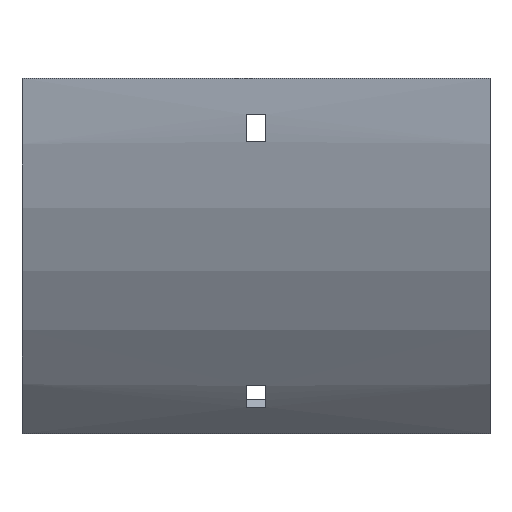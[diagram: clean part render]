
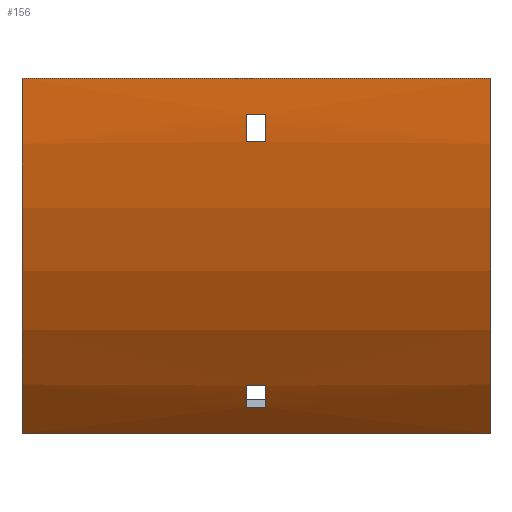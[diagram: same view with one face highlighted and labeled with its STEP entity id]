
A CAD part, front view. The second image highlights one B-rep face of the part: STEP entity #156.
In plain terms, the highlighted cylindrical face has radius 165.5 mm (diameter 331 mm), a partial arc.
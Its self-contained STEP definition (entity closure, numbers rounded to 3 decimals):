
#19 = VECTOR ( 'NONE', #184, 1000. ) ;
#54 = CIRCLE ( 'NONE', #167, 165.5 ) ;
#75 = AXIS2_PLACEMENT_3D ( 'NONE', #454, #552, #1070 ) ;
#77 = CARTESIAN_POINT ( 'NONE',  ( -77., -65.5, 0. ) ) ;
#94 = VERTEX_POINT ( 'NONE', #578 ) ;
#98 = VECTOR ( 'NONE', #327, 1000. ) ;
#102 = EDGE_CURVE ( 'NONE', #807, #732, #1025, .T. ) ;
#123 = ORIENTED_EDGE ( 'NONE', *, *, #432, .F. ) ;
#131 = CIRCLE ( 'NONE', #736, 165.5 ) ;
#144 = VERTEX_POINT ( 'NONE', #383 ) ;
#153 = ORIENTED_EDGE ( 'NONE', *, *, #302, .F. ) ;
#156 = ADVANCED_FACE ( 'NONE', ( #364, #818, #640 ), #1022, .T. ) ;
#165 = DIRECTION ( 'NONE',  ( -1., 0., 0. ) ) ;
#167 = AXIS2_PLACEMENT_3D ( 'NONE', #680, #540, #981 ) ;
#181 = AXIS2_PLACEMENT_3D ( 'NONE', #229, #589, #395 ) ;
#184 = DIRECTION ( 'NONE',  ( 1., 0., 0. ) ) ;
#205 = AXIS2_PLACEMENT_3D ( 'NONE', #925, #300, #655 ) ;
#215 = LINE ( 'NONE', #571, #947 ) ;
#222 = DIRECTION ( 'NONE',  ( 0., 0., -1. ) ) ;
#223 = ORIENTED_EDGE ( 'NONE', *, *, #711, .F. ) ;
#229 = CARTESIAN_POINT ( 'NONE',  ( 77., 100., 0. ) ) ;
#232 = CARTESIAN_POINT ( 'NONE',  ( 77., -65.5, 0. ) ) ;
#234 = DIRECTION ( 'NONE',  ( 1., 0., 0. ) ) ;
#277 = DIRECTION ( 'NONE',  ( 0., 0., 1. ) ) ;
#300 = DIRECTION ( 'NONE',  ( 1., 0., 0. ) ) ;
#302 = EDGE_CURVE ( 'NONE', #1010, #699, #649, .T. ) ;
#315 = VERTEX_POINT ( 'NONE', #1139 ) ;
#322 = CARTESIAN_POINT ( 'NONE',  ( 3.25, -30.929, -101.231 ) ) ;
#325 = EDGE_CURVE ( 'NONE', #791, #400, #337, .T. ) ;
#327 = DIRECTION ( 'NONE',  ( 1., 0., 0. ) ) ;
#337 = LINE ( 'NONE', #956, #360 ) ;
#360 = VECTOR ( 'NONE', #165, 1000. ) ;
#364 = FACE_OUTER_BOUND ( 'NONE', #433, .T. ) ;
#368 = VERTEX_POINT ( 'NONE', #750 ) ;
#373 = ORIENTED_EDGE ( 'NONE', *, *, #1136, .T. ) ;
#383 = CARTESIAN_POINT ( 'NONE',  ( 77., -17.026, -117.026 ) ) ;
#390 = CARTESIAN_POINT ( 'NONE',  ( 77., -30.929, -101.231 ) ) ;
#395 = DIRECTION ( 'NONE',  ( 0., 0., 1. ) ) ;
#400 = VERTEX_POINT ( 'NONE', #1085 ) ;
#432 = EDGE_CURVE ( 'NONE', #699, #315, #131, .T. ) ;
#433 = EDGE_LOOP ( 'NONE', ( #944, #223, #751, #576 ) ) ;
#443 = CARTESIAN_POINT ( 'NONE',  ( -77., -17.026, -117.026 ) ) ;
#447 = AXIS2_PLACEMENT_3D ( 'NONE', #948, #234, #222 ) ;
#451 = LINE ( 'NONE', #458, #19 ) ;
#454 = CARTESIAN_POINT ( 'NONE',  ( 3.25, 100., 0. ) ) ;
#458 = CARTESIAN_POINT ( 'NONE',  ( 77., -65.064, -12. ) ) ;
#484 = EDGE_CURVE ( 'NONE', #400, #368, #718, .T. ) ;
#513 = CARTESIAN_POINT ( 'NONE',  ( 3.25, -65.064, -12. ) ) ;
#540 = DIRECTION ( 'NONE',  ( 1., 0., 0. ) ) ;
#544 = CARTESIAN_POINT ( 'NONE',  ( -3.25, 100., 0. ) ) ;
#552 = DIRECTION ( 'NONE',  ( -1., 0., 0. ) ) ;
#565 = CARTESIAN_POINT ( 'NONE',  ( -3.25, 100., 0. ) ) ;
#571 = CARTESIAN_POINT ( 'NONE',  ( 77., -17.026, -117.026 ) ) ;
#574 = CARTESIAN_POINT ( 'NONE',  ( 77., -25.203, -108.233 ) ) ;
#576 = ORIENTED_EDGE ( 'NONE', *, *, #102, .T. ) ;
#578 = CARTESIAN_POINT ( 'NONE',  ( 3.25, -25.203, -108.233 ) ) ;
#587 = CIRCLE ( 'NONE', #75, 165.5 ) ;
#589 = DIRECTION ( 'NONE',  ( -1., 0., 0. ) ) ;
#618 = EDGE_LOOP ( 'NONE', ( #123, #153, #1122, #801 ) ) ;
#638 = EDGE_CURVE ( 'NONE', #315, #94, #1107, .T. ) ;
#640 = FACE_BOUND ( 'NONE', #618, .T. ) ;
#649 = LINE ( 'NONE', #390, #1151 ) ;
#655 = DIRECTION ( 'NONE',  ( 0., 0., -1. ) ) ;
#659 = EDGE_CURVE ( 'NONE', #1035, #791, #1039, .T. ) ;
#675 = EDGE_CURVE ( 'NONE', #732, #802, #848, .T. ) ;
#680 = CARTESIAN_POINT ( 'NONE',  ( 77., 100., 0. ) ) ;
#699 = VERTEX_POINT ( 'NONE', #735 ) ;
#702 = DIRECTION ( 'NONE',  ( -1., 0., 0. ) ) ;
#711 = EDGE_CURVE ( 'NONE', #144, #802, #215, .T. ) ;
#718 = CIRCLE ( 'NONE', #871, 165.5 ) ;
#732 = VERTEX_POINT ( 'NONE', #77 ) ;
#735 = CARTESIAN_POINT ( 'NONE',  ( -3.25, -30.929, -101.231 ) ) ;
#736 = AXIS2_PLACEMENT_3D ( 'NONE', #565, #987, #805 ) ;
#750 = CARTESIAN_POINT ( 'NONE',  ( -3.25, -65.064, -12. ) ) ;
#751 = ORIENTED_EDGE ( 'NONE', *, *, #761, .F. ) ;
#761 = EDGE_CURVE ( 'NONE', #807, #144, #54, .T. ) ;
#791 = VERTEX_POINT ( 'NONE', #1040 ) ;
#792 = CARTESIAN_POINT ( 'NONE',  ( 77., -65.5, 0. ) ) ;
#801 = ORIENTED_EDGE ( 'NONE', *, *, #638, .F. ) ;
#802 = VERTEX_POINT ( 'NONE', #443 ) ;
#805 = DIRECTION ( 'NONE',  ( 0., 0., -1. ) ) ;
#807 = VERTEX_POINT ( 'NONE', #792 ) ;
#818 = FACE_BOUND ( 'NONE', #933, .T. ) ;
#848 = CIRCLE ( 'NONE', #447, 165.5 ) ;
#871 = AXIS2_PLACEMENT_3D ( 'NONE', #544, #1071, #277 ) ;
#878 = ORIENTED_EDGE ( 'NONE', *, *, #325, .T. ) ;
#893 = EDGE_CURVE ( 'NONE', #94, #1010, #587, .T. ) ;
#908 = VECTOR ( 'NONE', #958, 1000. ) ;
#925 = CARTESIAN_POINT ( 'NONE',  ( 3.25, 100., 0. ) ) ;
#933 = EDGE_LOOP ( 'NONE', ( #878, #1106, #373, #978 ) ) ;
#944 = ORIENTED_EDGE ( 'NONE', *, *, #675, .T. ) ;
#947 = VECTOR ( 'NONE', #702, 1000. ) ;
#948 = CARTESIAN_POINT ( 'NONE',  ( -77., 100., 0. ) ) ;
#956 = CARTESIAN_POINT ( 'NONE',  ( 77., -64.162, -21. ) ) ;
#958 = DIRECTION ( 'NONE',  ( -1., 0., 0. ) ) ;
#978 = ORIENTED_EDGE ( 'NONE', *, *, #659, .T. ) ;
#981 = DIRECTION ( 'NONE',  ( 0., 0., -1. ) ) ;
#987 = DIRECTION ( 'NONE',  ( 1., 0., 0. ) ) ;
#1009 = DIRECTION ( 'NONE',  ( -1., 0., 0. ) ) ;
#1010 = VERTEX_POINT ( 'NONE', #322 ) ;
#1022 = CYLINDRICAL_SURFACE ( 'NONE', #181, 165.5 ) ;
#1025 = LINE ( 'NONE', #232, #908 ) ;
#1035 = VERTEX_POINT ( 'NONE', #513 ) ;
#1039 = CIRCLE ( 'NONE', #205, 165.5 ) ;
#1040 = CARTESIAN_POINT ( 'NONE',  ( 3.25, -64.162, -21. ) ) ;
#1070 = DIRECTION ( 'NONE',  ( 0., 0., 1. ) ) ;
#1071 = DIRECTION ( 'NONE',  ( -1., 0., 0. ) ) ;
#1085 = CARTESIAN_POINT ( 'NONE',  ( -3.25, -64.162, -21. ) ) ;
#1106 = ORIENTED_EDGE ( 'NONE', *, *, #484, .T. ) ;
#1107 = LINE ( 'NONE', #574, #98 ) ;
#1122 = ORIENTED_EDGE ( 'NONE', *, *, #893, .F. ) ;
#1136 = EDGE_CURVE ( 'NONE', #368, #1035, #451, .T. ) ;
#1139 = CARTESIAN_POINT ( 'NONE',  ( -3.25, -25.203, -108.233 ) ) ;
#1151 = VECTOR ( 'NONE', #1009, 1000. ) ;
